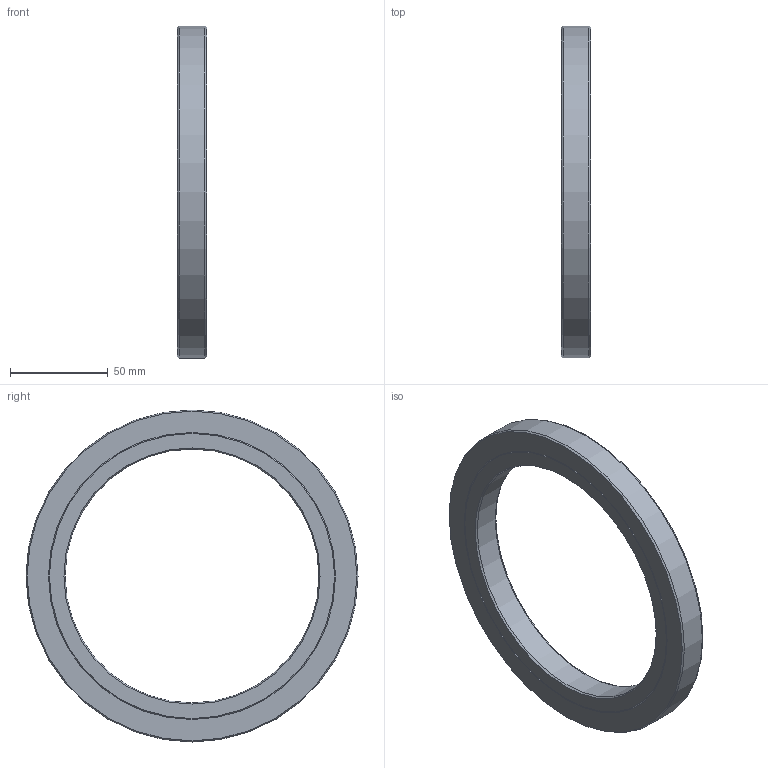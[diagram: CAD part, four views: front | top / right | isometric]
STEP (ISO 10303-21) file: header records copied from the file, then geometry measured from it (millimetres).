
FILE_DESCRIPTION(/* description */ (''),/* implementation_level */ '2;1');
FILE_NAME(/* name */ '302011 SA 130x170x15.stp',/* time_stamp */ '2016-12-16T15:57:14+01:00',/* author */ (''),/* organization */ (''),/* preprocessor_version */ 'ST-DEVELOPER v15',/* originating_system */ 'SIEMENS PLM Software NX 8.5',/* authorisation */ '');
FILE_SCHEMA (('CONFIG_CONTROL_DESIGN'));
Length unit declared in the file: millimetre
Products named in the file (1): ATE0000144_01
Bounding box: 15 x 170 x 170 mm (x, y, z)
Volume: 136962.9 mm3; surface area: 49864 mm2
Topology: 2 solids, 2 shells, 18 faces, 37 edges, 23 vertices
Faces by surface type: cone 10, plane 5, cylinder 3
Full cylindrical faces by diameter (mm): 130 x1, 170 x1
Entity records: 496 total; most frequent: CARTESIAN_POINT 78, DIRECTION 76, ORIENTED_EDGE 46, AXIS2_PLACEMENT_3D 38, EDGE_LOOP 33, FACE_BOUND 30, EDGE_CURVE 23, VERTEX_POINT 20
